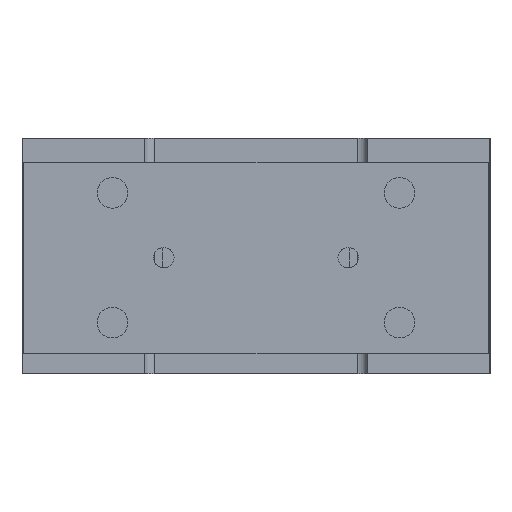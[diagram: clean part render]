
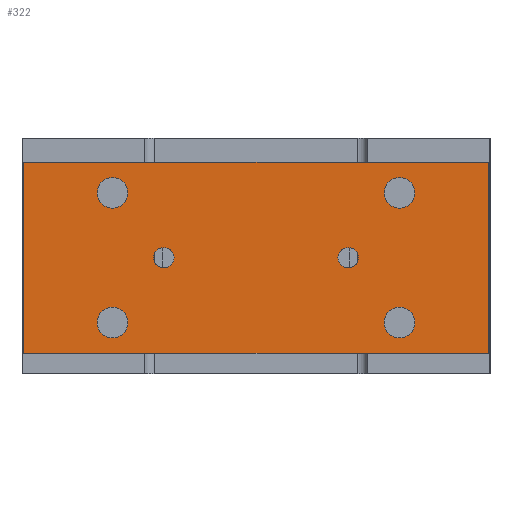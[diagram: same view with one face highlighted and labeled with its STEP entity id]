
A CAD part, left-side view. The second image highlights one B-rep face of the part: STEP entity #322.
In plain terms, the highlighted planar face has unit normal (-1, 0, 0).
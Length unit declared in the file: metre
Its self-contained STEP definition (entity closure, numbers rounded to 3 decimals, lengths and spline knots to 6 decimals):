
#322 = ADVANCED_FACE( '', ( #842, #843, #844, #845, #846, #847, #848 ), #849, .T. );
#842 = FACE_BOUND( '', #1698, .T. );
#843 = FACE_BOUND( '', #1699, .T. );
#844 = FACE_BOUND( '', #1700, .T. );
#845 = FACE_BOUND( '', #1701, .T. );
#846 = FACE_BOUND( '', #1702, .T. );
#847 = FACE_BOUND( '', #1703, .T. );
#848 = FACE_OUTER_BOUND( '', #1704, .T. );
#849 = PLANE( '', #1705 );
#1698 = EDGE_LOOP( '', ( #2660 ) );
#1699 = EDGE_LOOP( '', ( #2661 ) );
#1700 = EDGE_LOOP( '', ( #2662 ) );
#1701 = EDGE_LOOP( '', ( #2663 ) );
#1702 = EDGE_LOOP( '', ( #2664 ) );
#1703 = EDGE_LOOP( '', ( #2665 ) );
#1704 = EDGE_LOOP( '', ( #2666, #2667, #2668, #2669 ) );
#1705 = AXIS2_PLACEMENT_3D( '', #2670, #2671, #2672 );
#2660 = ORIENTED_EDGE( '', *, *, #4171, .F. );
#2661 = ORIENTED_EDGE( '', *, *, #4161, .F. );
#2662 = ORIENTED_EDGE( '', *, *, #4172, .F. );
#2663 = ORIENTED_EDGE( '', *, *, #4173, .F. );
#2664 = ORIENTED_EDGE( '', *, *, #4174, .F. );
#2665 = ORIENTED_EDGE( '', *, *, #4175, .T. );
#2666 = ORIENTED_EDGE( '', *, *, #4176, .T. );
#2667 = ORIENTED_EDGE( '', *, *, #4148, .T. );
#2668 = ORIENTED_EDGE( '', *, *, #4177, .T. );
#2669 = ORIENTED_EDGE( '', *, *, #4178, .T. );
#2670 = CARTESIAN_POINT( '', ( -0.1025, -0.068, -0.007 ) );
#2671 = DIRECTION( '', ( -1., 0., 0. ) );
#2672 = DIRECTION( '', ( 0., 0., 1. ) );
#4148 = EDGE_CURVE( '', #4813, #4811, #4814, .T. );
#4161 = EDGE_CURVE( '', #4832, #4832, #4833, .T. );
#4171 = EDGE_CURVE( '', #4847, #4847, #4848, .T. );
#4172 = EDGE_CURVE( '', #4849, #4849, #4850, .T. );
#4173 = EDGE_CURVE( '', #4851, #4851, #4852, .T. );
#4174 = EDGE_CURVE( '', #4853, #4853, #4854, .T. );
#4175 = EDGE_CURVE( '', #4855, #4855, #4856, .T. );
#4176 = EDGE_CURVE( '', #4857, #4813, #4858, .T. );
#4177 = EDGE_CURVE( '', #4811, #4859, #4860, .T. );
#4178 = EDGE_CURVE( '', #4859, #4857, #4861, .T. );
#4811 = VERTEX_POINT( '', #5764 );
#4813 = VERTEX_POINT( '', #5767 );
#4814 = LINE( '', #5768, #5769 );
#4832 = VERTEX_POINT( '', #5792 );
#4833 = CIRCLE( '', #5793, 0.0045 );
#4847 = VERTEX_POINT( '', #5811 );
#4848 = CIRCLE( '', #5812, 0.0045 );
#4849 = VERTEX_POINT( '', #5813 );
#4850 = CIRCLE( '', #5814, 0.0045 );
#4851 = VERTEX_POINT( '', #5815 );
#4852 = CIRCLE( '', #5816, 0.0045 );
#4853 = VERTEX_POINT( '', #5817 );
#4854 = CIRCLE( '', #5818, 0.003 );
#4855 = VERTEX_POINT( '', #5819 );
#4856 = CIRCLE( '', #5820, 0.003 );
#4857 = VERTEX_POINT( '', #5821 );
#4858 = LINE( '', #5822, #5823 );
#4859 = VERTEX_POINT( '', #5824 );
#4860 = LINE( '', #5825, #5826 );
#4861 = LINE( '', #5827, #5828 );
#5764 = CARTESIAN_POINT( '', ( -0.1025, 0.068, -0.007 ) );
#5767 = CARTESIAN_POINT( '', ( -0.1025, -0.068, -0.007 ) );
#5768 = CARTESIAN_POINT( '', ( -0.1025, -0.068, -0.007 ) );
#5769 = VECTOR( '', #6979, 1. );
#5792 = CARTESIAN_POINT( '', ( -0.1025, 0.0375, -0.054 ) );
#5793 = AXIS2_PLACEMENT_3D( '', #6991, #6992, #6993 );
#5811 = CARTESIAN_POINT( '', ( -0.1025, -0.0465, -0.054 ) );
#5812 = AXIS2_PLACEMENT_3D( '', #7004, #7005, #7006 );
#5813 = CARTESIAN_POINT( '', ( -0.1025, -0.0465, -0.016 ) );
#5814 = AXIS2_PLACEMENT_3D( '', #7007, #7008, #7009 );
#5815 = CARTESIAN_POINT( '', ( -0.1025, 0.0375, -0.016 ) );
#5816 = AXIS2_PLACEMENT_3D( '', #7010, #7011, #7012 );
#5817 = CARTESIAN_POINT( '', ( -0.1025, -0.024, -0.035 ) );
#5818 = AXIS2_PLACEMENT_3D( '', #7013, #7014, #7015 );
#5819 = CARTESIAN_POINT( '', ( -0.1025, 0.024, -0.035 ) );
#5820 = AXIS2_PLACEMENT_3D( '', #7016, #7017, #7018 );
#5821 = CARTESIAN_POINT( '', ( -0.1025, -0.068, -0.063 ) );
#5822 = CARTESIAN_POINT( '', ( -0.1025, -0.068, -0.063 ) );
#5823 = VECTOR( '', #7019, 1. );
#5824 = CARTESIAN_POINT( '', ( -0.1025, 0.068, -0.063 ) );
#5825 = CARTESIAN_POINT( '', ( -0.1025, 0.068, -0.007 ) );
#5826 = VECTOR( '', #7020, 1. );
#5827 = CARTESIAN_POINT( '', ( -0.1025, 0.068, -0.063 ) );
#5828 = VECTOR( '', #7021, 1. );
#6979 = DIRECTION( '', ( 0., 1., 0. ) );
#6991 = CARTESIAN_POINT( '', ( -0.1025, 0.042, -0.054 ) );
#6992 = DIRECTION( '', ( -1., 0., 0. ) );
#6993 = DIRECTION( '', ( 0., -1., 0. ) );
#7004 = CARTESIAN_POINT( '', ( -0.1025, -0.042, -0.054 ) );
#7005 = DIRECTION( '', ( -1., 0., 0. ) );
#7006 = DIRECTION( '', ( 0., -1., 0. ) );
#7007 = CARTESIAN_POINT( '', ( -0.1025, -0.042, -0.016 ) );
#7008 = DIRECTION( '', ( -1., 0., 0. ) );
#7009 = DIRECTION( '', ( 0., -1., 0. ) );
#7010 = CARTESIAN_POINT( '', ( -0.1025, 0.042, -0.016 ) );
#7011 = DIRECTION( '', ( -1., 0., 0. ) );
#7012 = DIRECTION( '', ( 0., -1., 0. ) );
#7013 = CARTESIAN_POINT( '', ( -0.1025, -0.027, -0.035 ) );
#7014 = DIRECTION( '', ( -1., 0., 0. ) );
#7015 = DIRECTION( '', ( 0., 1., 0. ) );
#7016 = CARTESIAN_POINT( '', ( -0.1025, 0.027, -0.035 ) );
#7017 = DIRECTION( '', ( 1., 0., 0. ) );
#7018 = DIRECTION( '', ( 0., -1., 0. ) );
#7019 = DIRECTION( '', ( 0., 0., 1. ) );
#7020 = DIRECTION( '', ( 0., 0., -1. ) );
#7021 = DIRECTION( '', ( 0., -1., 0. ) );
